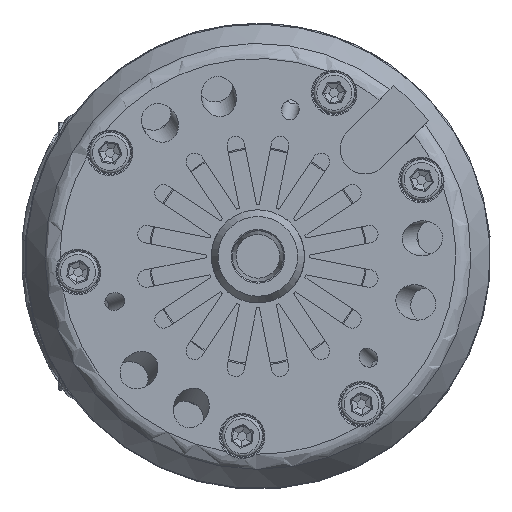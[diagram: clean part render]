
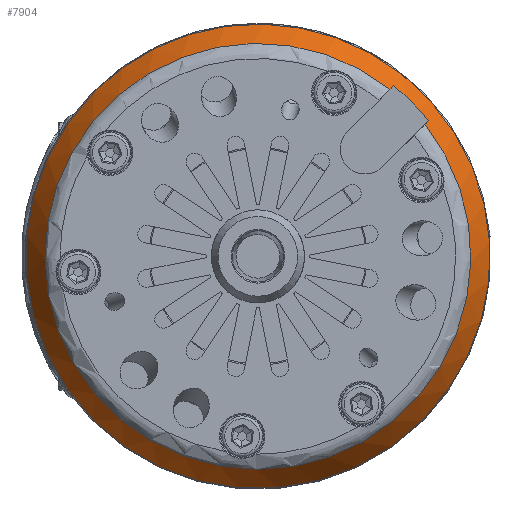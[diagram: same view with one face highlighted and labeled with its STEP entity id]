
A CAD part, front view. The second image highlights one B-rep face of the part: STEP entity #7904.
In plain terms, the highlighted conical face has half-angle 30 degrees and reference radius 36.566 mm.
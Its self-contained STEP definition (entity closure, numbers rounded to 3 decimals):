
#409 = AXIS2_PLACEMENT_3D ( 'NONE', #46165, #33642, #17302 ) ;
#424 = EDGE_CURVE ( 'NONE', #21758, #21758, #15176, .T. ) ;
#1319 = CARTESIAN_POINT ( 'NONE',  ( 28.19, -11.984, -28.19 ) ) ;
#1381 = DIRECTION ( 'NONE',  ( 0.707, 0., -0.707 ) ) ;
#3673 = EDGE_CURVE ( 'NONE', #31923, #15946, #39836, .T. ) ;
#7784 = CARTESIAN_POINT ( 'NONE',  ( 22.676, -17.7, 28.686 ) ) ;
#7904 = ADVANCED_FACE ( 'NONE', ( #30282, #43055 ), #20954, .T. ) ;
#11677 = CIRCLE ( 'NONE', #409, 36.566 ) ;
#11838 = CARTESIAN_POINT ( 'NONE',  ( 29.303, -16.2, 23.292 ) ) ;
#12831 = DIRECTION ( 'NONE',  ( 0., -1., 0. ) ) ;
#13039 = ORIENTED_EDGE ( 'NONE', *, *, #19813, .F. ) ;
#14682 = EDGE_CURVE ( 'NONE', #31923, #40321, #18470, .T. ) ;
#15176 = CIRCLE ( 'NONE', #35157, 39.866 ) ;
#15946 = VERTEX_POINT ( 'NONE', #7784 ) ;
#17302 = DIRECTION ( 'NONE',  ( 0.707, 0., -0.707 ) ) ;
#18470 = CIRCLE ( 'NONE', #48898, 37.432 ) ;
#19184 = CARTESIAN_POINT ( 'NONE',  ( 29.097, -16.7, 23.087 ) ) ;
#19464 = CARTESIAN_POINT ( 'NONE',  ( 28.892, -17.2, 22.881 ) ) ;
#19813 = EDGE_CURVE ( 'NONE', #15946, #44316, #11677, .T. ) ;
#20954 = CONICAL_SURFACE ( 'NONE', #30562, 36.566, 0.524 ) ;
#21758 = VERTEX_POINT ( 'NONE', #1319 ) ;
#22367 = DIRECTION ( 'NONE',  ( -0.707, 0., 0.707 ) ) ;
#23940 = ORIENTED_EDGE ( 'NONE', *, *, #27605, .F. ) ;
#24914 = EDGE_LOOP ( 'NONE', ( #32432, #39764, #23940, #13039 ) ) ;
#25995 = CARTESIAN_POINT ( 'NONE',  ( 23.087, -16.7, 29.097 ) ) ;
#27605 = EDGE_CURVE ( 'NONE', #44316, #40321, #44740, .T. ) ;
#27906 = CARTESIAN_POINT ( 'NONE',  ( 28.686, -17.7, 22.676 ) ) ;
#29748 = CARTESIAN_POINT ( 'NONE',  ( 0., -11.984, 0. ) ) ;
#30282 = FACE_OUTER_BOUND ( 'NONE', #36652, .T. ) ;
#30562 = AXIS2_PLACEMENT_3D ( 'NONE', #46619, #47420, #22367 ) ;
#30805 = DIRECTION ( 'NONE',  ( 0., 1., 0. ) ) ;
#31923 = VERTEX_POINT ( 'NONE', #53528 ) ;
#32432 = ORIENTED_EDGE ( 'NONE', *, *, #3673, .F. ) ;
#33642 = DIRECTION ( 'NONE',  ( 0., -1., 0. ) ) ;
#34595 = DIRECTION ( 'NONE',  ( 0.707, 0., -0.707 ) ) ;
#34928 = CARTESIAN_POINT ( 'NONE',  ( 22.676, -17.7, 28.686 ) ) ;
#35157 = AXIS2_PLACEMENT_3D ( 'NONE', #29748, #12831, #1381 ) ;
#36652 = EDGE_LOOP ( 'NONE', ( #49851 ) ) ;
#39016 = CARTESIAN_POINT ( 'NONE',  ( 22.881, -17.2, 28.892 ) ) ;
#39764 = ORIENTED_EDGE ( 'NONE', *, *, #14682, .T. ) ;
#39836 = B_SPLINE_CURVE_WITH_KNOTS ( 'NONE', 3,
 ( #51052, #25995, #39016, #34928 ),
 .UNSPECIFIED., .F., .F.,
 ( 4, 4 ),
 ( 0.024, 0.025 ),
 .UNSPECIFIED. ) ;
#40321 = VERTEX_POINT ( 'NONE', #11838 ) ;
#42416 = CARTESIAN_POINT ( 'NONE',  ( 28.686, -17.7, 22.676 ) ) ;
#43055 = FACE_BOUND ( 'NONE', #24914, .T. ) ;
#43291 = CARTESIAN_POINT ( 'NONE',  ( 0., -16.2, 0. ) ) ;
#44316 = VERTEX_POINT ( 'NONE', #42416 ) ;
#44510 = CARTESIAN_POINT ( 'NONE',  ( 29.303, -16.2, 23.292 ) ) ;
#44740 = B_SPLINE_CURVE_WITH_KNOTS ( 'NONE', 3,
 ( #27906, #19464, #19184, #44510 ),
 .UNSPECIFIED., .F., .F.,
 ( 4, 4 ),
 ( 0.026, 0.027 ),
 .UNSPECIFIED. ) ;
#46165 = CARTESIAN_POINT ( 'NONE',  ( 0., -17.7, 0. ) ) ;
#46619 = CARTESIAN_POINT ( 'NONE',  ( 0., -17.7, 0. ) ) ;
#47420 = DIRECTION ( 'NONE',  ( 0., 1., 0. ) ) ;
#48898 = AXIS2_PLACEMENT_3D ( 'NONE', #43291, #30805, #34595 ) ;
#49851 = ORIENTED_EDGE ( 'NONE', *, *, #424, .T. ) ;
#51052 = CARTESIAN_POINT ( 'NONE',  ( 23.292, -16.2, 29.303 ) ) ;
#53528 = CARTESIAN_POINT ( 'NONE',  ( 23.292, -16.2, 29.303 ) ) ;
